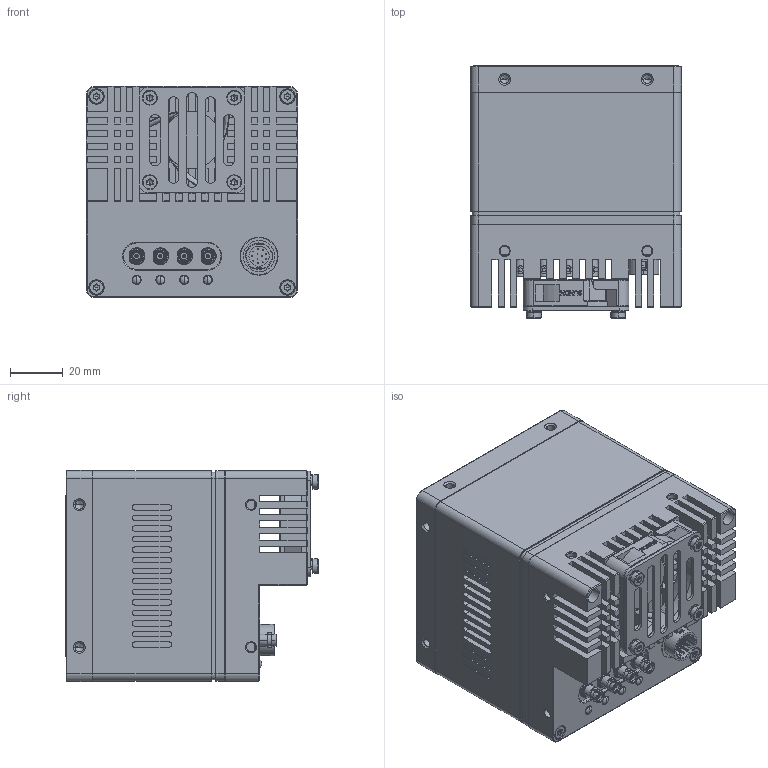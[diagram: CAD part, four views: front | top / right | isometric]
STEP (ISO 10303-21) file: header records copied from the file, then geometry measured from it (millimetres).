
FILE_DESCRIPTION((''),'2;1');
FILE_NAME('0-DH3-2632-0001_ASM_ASM','2021-11-19T',('21511'),(''),'PRO/ENGINEER BY PARAMETRIC TECHNOLOGY CORPORATION, 2015280','PRO/ENGINEER BY PARAMETRIC TECHNOLOGY CORPORATION, 2015280','');
FILE_SCHEMA(('CONFIG_CONTROL_DESIGN'));
Products named in the file (1): 0-DH3-2632-0001_ASM_ASM
Bounding box: 80 x 95.63 x 80 mm (x, y, z)
Volume: 460667.4 mm3; surface area: 94134.7 mm2
Topology: 2 solids, 48 shells, 2838 faces, 7635 edges, 5002 vertices
Faces by surface type: plane 1357, cylinder 941, cone 369, torus 86, bspline 76, sphere 8, extrusion 1
Entity records: 137773 total; most frequent: CARTESIAN_POINT 27837, DIRECTION 15178, ORIENTED_EDGE 15054, PRESENTATION_STYLE_ASSIGNMENT 9703, STYLED_ITEM 7529, CURVE_STYLE 7527, EDGE_CURVE 7527, AXIS2_PLACEMENT_3D 5608
